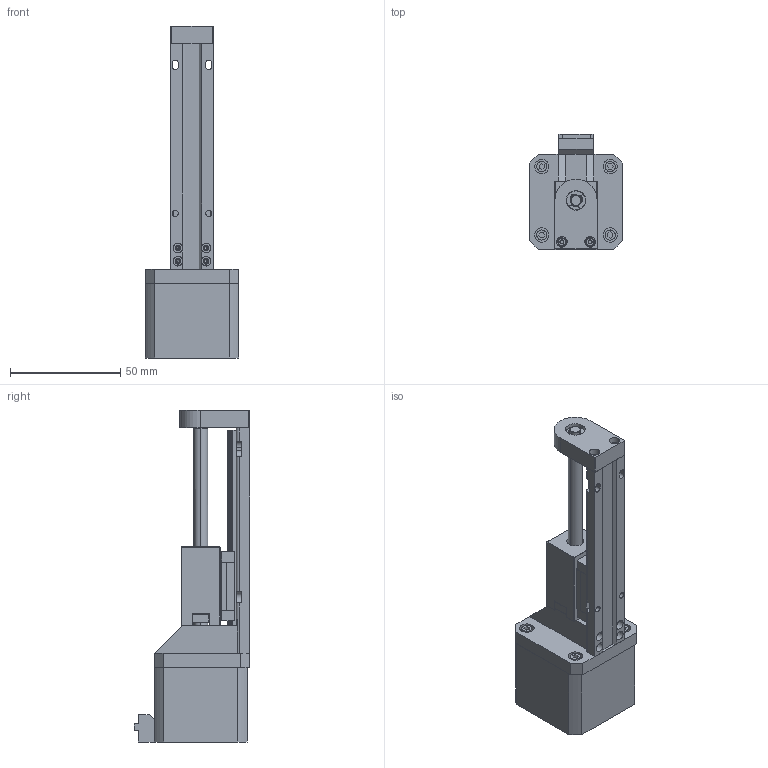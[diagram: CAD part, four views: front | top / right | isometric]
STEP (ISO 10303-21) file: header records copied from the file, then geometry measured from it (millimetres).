
FILE_DESCRIPTION (( 'STEP AP214' ), '1' );
FILE_NAME ('AMETEK-BGS04BR-M43-0025-02.00-1.8-2.33-SS-0000-CN-130-0.STEP', '2022-03-08T09:09:43', ( '' ), ( '' ), 'SwSTEP 2.0', 'SolidWorks 2021', '' );
FILE_SCHEMA (( 'AUTOMOTIVE_DESIGN' ));
Length unit declared in the file: inch
Products named in the file (14): 26-RBS04MP; AMETEK-BGS04BR-M43-0025-02.00-1.8-2.33-SS-0000-CN-130-0; hex nut style 2_am_B18.2.4.2M - Hex nut, Style 2,  M4 x 0.7 --D-N; 7MN-rail 12in BGS; 01-1023; 61-257_61-257-6; 43000_External_Linear_Connector; 91290A013; 26-Carriage BGS04; 26-RBS04BP-M28_26-2403; 26-RBS04ES; 61-310_61-310; 7ML-SS_ZZ-block BGS; 01-XXXXDS-M28_43S
Assembly tree (17 placements, depth 2):
  AMETEK-BGS04BR-M43-0025-02.00-1.8-2.33-SS-0000-CN-130-0
    43000_External_Linear_Connector
    01-XXXXDS-M28_43S
    26-RBS04BP-M28_26-2403
    26-RBS04ES
    61-257_61-257-6
    91290A013  x2
    61-310_61-310
    26-Carriage BGS04
    26-RBS04MP
    01-1023  x4
    hex nut style 2_am_B18.2.4.2M - Hex nut, Style 2,  M4 x 0.7 --D-N
    7MN-rail 12in BGS
    7ML-SS_ZZ-block BGS
Bounding box: 42.2 x 52.23 x 150.46 mm (x, y, z)
Volume: 90145.9 mm3; surface area: 39589.4 mm2
Topology: 15 solids, 33 shells, 830 faces, 2118 edges, 1372 vertices
Faces by surface type: plane 369, cylinder 349, cone 100, torus 8, bspline 4
Entity records: 27319 total; most frequent: CARTESIAN_POINT 5868, DIRECTION 3616, ORIENTED_EDGE 3372, EDGE_CURVE 1788, AXIS2_PLACEMENT_3D 1294, VERTEX_POINT 1162, VECTOR 1028, LINE 1028
